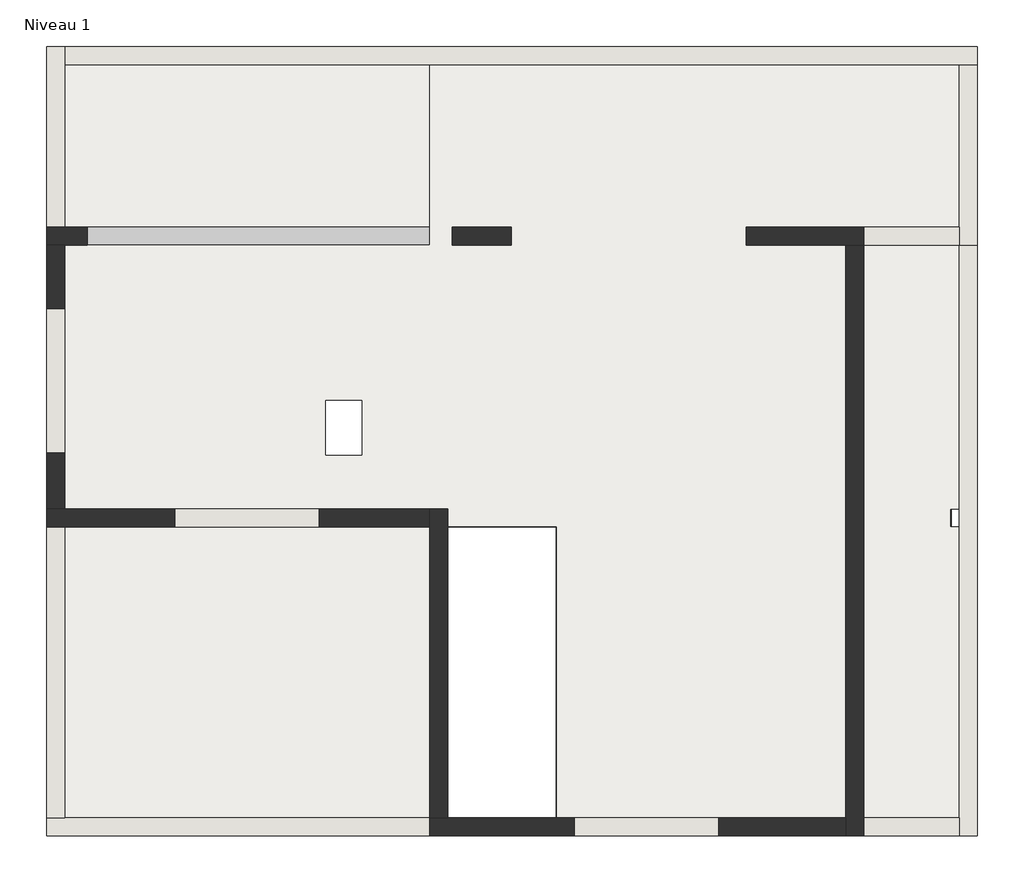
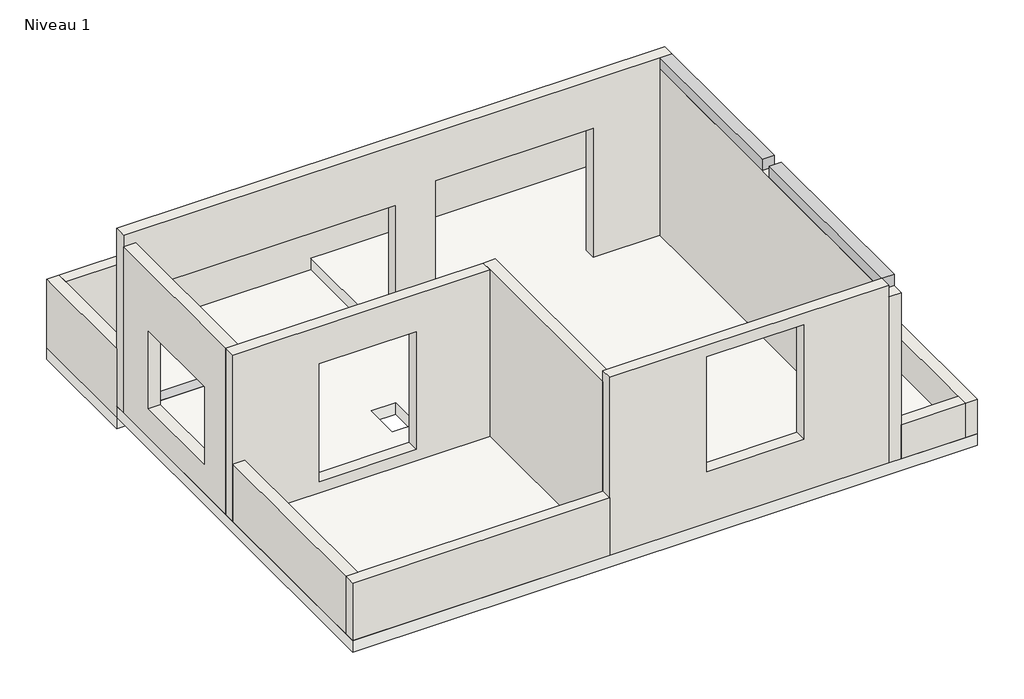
# One storey: 14 walls, 7 beams, 2 slabs.
"""IFC4 building model written with IfcOpenShell, lengths in millimetres."""

from ifc_helpers import new_model, si_unit, frame, origin, place, context, project, spatial, polyline, outline, extrude, faceted_brep, element, save

model = new_model("IFC4")

# Units and contexts
model_context = context("Model", 3, world=origin())
ifc_project = project(units=[si_unit("LENGTHUNIT", "METRE", prefix="MILLI")], contexts=[model_context])

# Site, building, storey
site = spatial("IfcSite", under=ifc_project)
building = spatial("IfcBuilding", under=site)
storey = spatial("IfcBuildingStorey", under=building, Name="Niveau 1", Elevation=2900.0)

# Beams
placement = place(None, origin())
element("IfcBeam", 1, ObjectType="LMO Poutres rectangulaires : LMO Poutres rectangulaires", at=placement, inside=storey, context=model_context, shape_type="Brep", body=[
    faceted_brep([(1266.8198466, -8665.2827088, 2500.0), (1266.8198466, -8465.2827088, 2500.0), (1266.8198466, -8465.2827088, 2700.0), (1266.8198466, -8665.2827088, 2700.0), (-4347.8690561, -8465.2827088, 2500.0), (-4347.8690561, -8665.2827088, 2500.0), (-4347.8690561, -8665.2827088, 2700.0), (-4347.8690561, -8465.2827088, 2700.0), (-3105.2732558, -8665.2827088, 2700.0), (-4305.2732558, -8665.2827088, 2700.0)], [[[0, 1, 2, 3]], [[4, 5, 6, 7]], [[5, 0, 3, 8, 9, 6]], [[1, 0, 5, 4]], [[1, 4, 7, 2]], [[3, 2, 7, 6, 9, 8]]]),
])
element("IfcBeam", 2, ObjectType="LMO Poutres rectangulaires : LMO Poutres rectangulaires", at=placement, inside=storey, context=model_context, shape_type="SweptSolid", body=[
    extrude(outline(polyline([(1354.7267442, -3345.2827088), (1554.7267442, -3345.2827088), (1554.7267442, -5345.2827088), (1354.7267442, -5345.2827088), (1354.7267442, -3345.2827088)])), frame((0.0, 0.0, 2500.0), z_axis=(0.0, 0.0, 1.0), x_axis=(1.0, 0.0, 0.0)), (0.0, 0.0, 1.0), 200.0),
])
element("IfcBeam", 3, ObjectType="LMO Poutres rectangulaires : LMO Poutres rectangulaires", at=placement, inside=storey, context=model_context, shape_type="Brep", body=[
    faceted_brep([(-8545.2732558, -5545.2827088, 2900.0), (-8545.2732558, -5345.2827088, 2900.0), (-8545.2732558, -5345.2827088, 2700.0), (-8545.2732558, -5345.2827088, 2500.0), (-8545.2732558, -5545.2827088, 2500.0), (-8545.2732558, -5545.2827088, 2700.0), (-4505.2732558, -5545.2827088, 2900.0), (-4505.2732558, -5545.2827088, 2700.0), (-4505.2732558, -5545.2827088, 2500.0), (-4505.2732558, -5345.2827088, 2500.0), (-4505.2732558, -5345.2827088, 2900.0)], [[[0, 1, 2, 3, 4, 5]], [[6, 7, 8, 9, 10]], [[1, 0, 6, 10]], [[3, 2, 1, 10, 9]], [[4, 3, 9, 8]], [[0, 5, 4, 8, 7, 6]]]),
])
element("IfcBeam", 4, ObjectType="LMO Poutres rectangulaires : LMO Poutres rectangulaires", at=placement, inside=storey, context=model_context, shape_type="SweptSolid", body=[
    extrude(outline(polyline([(-4505.2732558, -8465.2827088), (-4505.2732558, -8665.2827088), (-8545.2732558, -8665.2827088), (-8545.2732558, -8465.2827088), (-4505.2732558, -8465.2827088)])), frame((0.0, 0.0, 2700.0), z_axis=(0.0, 0.0, 1.0), x_axis=(1.0, 0.0, 0.0)), (0.0, 0.0, 1.0), 200.0),
])
element("IfcBeam", 5, ObjectType="LMO Poutres rectangulaires : LMO Poutres rectangulaires", at=placement, inside=storey, context=model_context, shape_type="SweptSolid", body=[
    extrude(outline(polyline([(294.7267442, -8465.2827088), (94.7267442, -8465.2827088), (94.7267442, -5545.2827088), (294.7267442, -5545.2827088), (294.7267442, -8465.2827088)])), frame((0.0, 0.0, 2700.0), z_axis=(0.0, 0.0, 1.0), x_axis=(1.0, 0.0, 0.0)), (0.0, 0.0, 1.0), 3300.0),
])
element("IfcBeam", 6, ObjectType="LMO Poutres rectangulaires : LMO Poutres rectangulaires", at=placement, inside=storey, context=model_context, shape_type="SweptSolid", body=[
    extrude(outline(polyline([(294.7267442, -11885.2827088), (94.7267442, -11885.2827088), (94.7267442, -8665.2827088), (294.7267442, -8665.2827088), (294.7267442, -11885.2827088)])), frame((0.0, 0.0, 2700.0), z_axis=(0.0, 0.0, 1.0), x_axis=(1.0, 0.0, 0.0)), (0.0, 0.0, 1.0), 3300.0),
])
element("IfcBeam", 7, ObjectType="LMO Poutres rectangulaires : LMO Poutres rectangulaires", at=placement, inside=storey, context=model_context, shape_type="SweptSolid", body=[
    extrude(outline(polyline([(-2805.2732558, -11885.2827088), (-3105.2732558, -11885.2827088), (-3105.2732558, -8665.2827088), (-2805.2732558, -8665.2827088), (-2805.2732558, -11885.2827088)])), frame((0.0, 0.0, 2700.0), z_axis=(0.0, 0.0, 1.0), x_axis=(1.0, 0.0, 0.0)), (0.0, 0.0, 1.0), 200.0),
])

# Slabs
element("IfcSlab", 8, ObjectType="LMO dalle BA 200", at=placement, inside=storey, context=model_context, shape_type="Brep", body=[
    faceted_brep([(1554.7267442, -12085.2827088, 2700.0), (1354.7267442, -12085.2827088, 2700.0), (-8745.2732558, -12085.2827088, 2700.0), (-8745.2732558, -11885.2827088, 2700.0), (-8745.2732558, -5345.2827088, 2700.0), (-8545.2732558, -5345.2827088, 2700.0), (-8545.2732558, -5545.2827088, 2700.0), (-4505.2732558, -5545.2827088, 2700.0), (-4505.2732558, -5345.2827088, 2700.0), (-4505.2732558, -3545.2827088, 2700.0), (-4505.2732558, -3345.2827088, 2700.0), (-4305.2732558, -3345.2827088, 2700.0), (1354.7267442, -3345.2827088, 2700.0), (1554.7267442, -3345.2827088, 2700.0), (1554.7267442, -5345.2827088, 2700.0), (1554.7267442, -5545.2827088, 2700.0), (1554.7267442, -8465.2827088, 2700.0), (1354.7267442, -8465.2827088, 2700.0), (1254.7267442, -8465.2827088, 2700.0), (1254.7267442, -8665.2827088, 2700.0), (1354.7267442, -8665.2827088, 2700.0), (1554.7267442, -8665.2827088, 2700.0), (-3105.2732558, -11885.2827088, 2700.0), (-3105.2732558, -8665.2827088, 2700.0), (-4293.4698569, -8665.2827088, 2700.0), (-4305.2732558, -8665.2827088, 2700.0), (-4305.2732558, -8677.0861077, 2700.0), (-4305.2732558, -11885.2827088, 2700.0), (-5255.2732558, -7265.2827088, 2700.0), (-5655.2732558, -7265.2827088, 2700.0), (-5655.2732558, -7865.2827088, 2700.0), (-5255.2732558, -7865.2827088, 2700.0), (-8745.2732558, -12085.2827088, 2900.0), (-4505.2732558, -12085.2827088, 2900.0), (94.7267442, -12085.2827088, 2900.0), (294.7267442, -12085.2827088, 2900.0), (1354.7267442, -12085.2827088, 2900.0), (1554.7267442, -12085.2827088, 2900.0), (1554.7267442, -8665.2827088, 2900.0), (1254.7267442, -8665.2827088, 2900.0), (1254.7267442, -8465.2827088, 2900.0), (1554.7267442, -8465.2827088, 2900.0), (1554.7267442, -5545.2827088, 2900.0), (1554.7267442, -3545.2827088, 2900.0), (1554.7267442, -3345.2827088, 2900.0), (-4505.2732558, -3345.2827088, 2900.0), (-4505.2732558, -3545.2827088, 2900.0), (-4505.2732558, -5345.2827088, 2900.0), (-4505.2732558, -5545.2827088, 2900.0), (-8545.2732558, -5545.2827088, 2900.0), (-8545.2732558, -5345.2827088, 2900.0), (-8745.2732558, -5345.2827088, 2900.0), (-8745.2732558, -5545.2827088, 2900.0), (-8745.2732558, -8465.2827088, 2900.0), (-8745.2732558, -8665.2827088, 2900.0), (-8745.2732558, -11885.2827088, 2900.0), (-3105.2732558, -8665.2827088, 2900.0), (-3105.2732558, -11885.2827088, 2900.0), (-4305.2732558, -11885.2827088, 2900.0), (-4305.2732558, -8677.0861077, 2900.0), (-4305.2732558, -8665.2827088, 2900.0), (-4293.4698569, -8665.2827088, 2900.0), (-5655.2732558, -7265.2827088, 2900.0), (-5255.2732558, -7265.2827088, 2900.0), (-5255.2732558, -7865.2827088, 2900.0), (-5655.2732558, -7865.2827088, 2900.0)], [[[0, 1, 2, 3, 4, 5, 6, 7, 8, 9, 10, 11, 12, 13, 14, 15, 16, 17, 18, 19, 20, 21], [22, 23, 24, 25, 26, 27], [28, 29, 30, 31]], [[32, 33, 34, 35, 36, 37, 38, 39, 40, 41, 42, 43, 44, 45, 46, 47, 48, 49, 50, 51, 52, 53, 54, 55], [56, 57, 58, 59, 60, 61], [62, 63, 64, 65]], [[2, 1, 0, 37, 36, 35, 34, 33, 32]], [[4, 3, 2, 32, 55, 54, 53, 52, 51]], [[7, 6, 49, 48]], [[7, 48, 47, 46, 45, 10, 9, 8]], [[13, 12, 11, 10, 45, 44]], [[13, 44, 43, 42, 41, 16, 15, 14]], [[37, 0, 21, 38]], [[23, 22, 57, 56]], [[25, 24, 23, 56, 61, 60]], [[27, 26, 25, 60, 59, 58]], [[22, 27, 58, 57]], [[29, 28, 63, 62]], [[30, 29, 62, 65]], [[31, 30, 65, 64]], [[28, 31, 64, 63]], [[19, 39, 38, 21, 20]], [[39, 19, 18, 40]], [[40, 18, 17, 16, 41]], [[5, 4, 51, 50]], [[6, 5, 50, 49]]]),
])
element("IfcSlab", 9, ObjectType="LMO dalle BA 200", at=placement, inside=storey, context=model_context, shape_type="Brep", body=[
    faceted_brep([(-4305.2732558, -3345.2827088, 2500.0), (-4305.2732558, -3545.2827088, 2500.0), (-4305.2732558, -5345.2827088, 2500.0), (-4505.2732558, -5345.2827088, 2500.0), (-8545.2732558, -5345.2827088, 2500.0), (-8745.2732558, -5345.2827088, 2500.0), (-8745.2732558, -3545.2827088, 2500.0), (-8745.2732558, -3345.2827088, 2500.0), (-4305.2732558, -3345.2827088, 2700.0), (-4505.2732558, -3345.2827088, 2700.0), (-8545.2732558, -3345.2827088, 2700.0), (-8745.2732558, -3345.2827088, 2700.0), (-8745.2732558, -5345.2827088, 2700.0), (-8545.2732558, -5345.2827088, 2700.0), (-4505.2732558, -5345.2827088, 2700.0), (-4305.2732558, -5345.2827088, 2700.0)], [[[0, 1, 2, 3, 4, 5, 6, 7]], [[8, 9, 10, 11, 12, 13, 14, 15]], [[2, 1, 0, 8, 15]], [[5, 4, 3, 2, 15, 14, 13, 12]], [[7, 6, 5, 12, 11]], [[0, 7, 11, 10, 9, 8]]]),
])

# Walls
element("IfcWall", 10, ObjectType="Générique - 200 mm", at=placement, inside=storey, context=model_context, shape_type="Brep", body=[
    faceted_brep([(-8745.2732558, -5545.2827088, 2900.0), (-8545.2732558, -5545.2827088, 2900.0), (-8295.2732558, -5545.2827088, 2900.0), (-8295.2732558, -5545.2827088, 4950.0), (-4255.2732558, -5545.2827088, 4950.0), (-4255.2732558, -5545.2827088, 2900.0), (-3605.2732558, -5545.2827088, 2900.0), (-3605.2732558, -5545.2827088, 5150.0), (-1005.2732558, -5545.2827088, 5150.0), (-1005.2732558, -5545.2827088, 2900.0), (94.7267442, -5545.2827088, 2900.0), (294.7267442, -5545.2827088, 2900.0), (294.7267442, -5545.2827088, 3900.0), (294.7267442, -5545.2827088, 5800.0), (294.7267442, -5545.2827088, 6000.0), (-8745.2732558, -5545.2827088, 6000.0), (-8745.2732558, -5545.2827088, 5800.0), (-8295.2732558, -5345.2827088, 4950.0), (-8295.2732558, -5345.2827088, 2900.0), (-8545.2732558, -5345.2827088, 2900.0), (-8745.2732558, -5345.2827088, 2900.0), (-8745.2732558, -5345.2827088, 3900.0), (-8745.2732558, -5345.2827088, 6000.0), (294.7267442, -5345.2827088, 6000.0), (294.7267442, -5345.2827088, 3900.0), (294.7267442, -5345.2827088, 2900.0), (-1005.2732558, -5345.2827088, 2900.0), (-1005.2732558, -5345.2827088, 5150.0), (-3605.2732558, -5345.2827088, 5150.0), (-3605.2732558, -5345.2827088, 2900.0), (-4255.2732558, -5345.2827088, 2900.0), (-4255.2732558, -5345.2827088, 4950.0)], [[[0, 1, 2, 3, 4, 5, 6, 7, 8, 9, 10, 11, 12, 13, 14, 15, 16]], [[17, 18, 19, 20, 21, 22, 23, 24, 25, 26, 27, 28, 29, 30, 31]], [[11, 10, 9, 26, 25]], [[30, 29, 6, 5]], [[20, 19, 18, 2, 1, 0]], [[15, 14, 23, 22]], [[5, 4, 31, 30]], [[3, 2, 18, 17]], [[4, 3, 17, 31]], [[29, 28, 7, 6]], [[27, 26, 9, 8]], [[28, 27, 8, 7]], [[15, 22, 21, 20, 0, 16]], [[11, 25, 24, 23, 14, 13, 12]]]),
])
element("IfcWall", 11, ObjectType="Générique - 200 mm", at=placement, inside=storey, context=model_context, shape_type="Brep", body=[
    faceted_brep([(94.7267442, -5545.2827088, 2900.0), (94.7267442, -11885.2827088, 2900.0), (94.7267442, -12085.2827088, 2900.0), (94.7267442, -12085.2827088, 5800.0), (94.7267442, -11885.2827088, 5800.0), (94.7267442, -5545.2827088, 5800.0), (294.7267442, -12085.2827088, 2900.0), (294.7267442, -11885.2827088, 2900.0), (294.7267442, -5545.2827088, 2900.0), (294.7267442, -5545.2827088, 5800.0), (294.7267442, -12085.2827088, 5800.0), (294.7267442, -12085.2827088, 3500.0)], [[[0, 1, 2, 3, 4, 5]], [[6, 7, 8, 9, 10, 11]], [[2, 1, 0, 8, 7, 6]], [[5, 4, 3, 10, 9]], [[8, 0, 5, 9]], [[2, 6, 11, 10, 3]]]),
])
element("IfcWall", 12, ObjectType="Générique - 200 mm", at=placement, inside=storey, context=model_context, shape_type="Brep", body=[
    faceted_brep([(94.7267442, -11885.2827088, 6000.0), (94.7267442, -11885.2827088, 5800.0), (94.7267442, -11885.2827088, 2900.0), (-3105.2732558, -11885.2827088, 2900.0), (-4305.2732558, -11885.2827088, 2900.0), (-4505.2732558, -11885.2827088, 2900.0), (-4505.2732558, -11885.2827088, 3900.0), (-4505.2732558, -11885.2827088, 5800.0), (-4505.2732558, -11885.2827088, 6000.0), (-2905.2732558, -11885.2827088, 5800.0), (-2905.2732558, -11885.2827088, 3800.0), (-1305.2732558, -11885.2827088, 3800.0), (-1305.2732558, -11885.2827088, 5800.0), (94.7267442, -12085.2827088, 2900.0), (94.7267442, -12085.2827088, 5800.0), (94.7267442, -12085.2827088, 6000.0), (-4505.2732558, -12085.2827088, 6000.0), (-4505.2732558, -12085.2827088, 3900.0), (-4505.2732558, -12085.2827088, 2900.0), (-2905.2732558, -12085.2827088, 5800.0), (-1305.2732558, -12085.2827088, 5800.0), (-1305.2732558, -12085.2827088, 3800.0), (-2905.2732558, -12085.2827088, 3800.0)], [[[0, 1, 2, 3, 4, 5, 6, 7, 8], [9, 10, 11, 12]], [[13, 14, 15, 16, 17, 18], [19, 20, 21, 22]], [[5, 4, 3, 2, 13, 18]], [[0, 8, 16, 15]], [[10, 9, 19, 22]], [[11, 10, 22, 21]], [[12, 11, 21, 20]], [[9, 12, 20, 19]], [[0, 15, 14, 13, 2, 1]], [[5, 18, 17, 16, 8, 7, 6]]]),
])
element("IfcWall", 13, ObjectType="Générique - 200 mm", at=placement, inside=storey, context=model_context, shape_type="Brep", body=[
    faceted_brep([(-4305.2732558, -11885.2827088, 2900.0), (-4305.2732558, -8665.2827088, 2900.0), (-4305.2732558, -8465.2827088, 2900.0), (-4305.2732558, -8465.2827088, 5800.0), (-4305.2732558, -11885.2827088, 5800.0), (-4505.2732558, -8465.2827088, 2900.0), (-4505.2732558, -8665.2827088, 2900.0), (-4505.2732558, -11885.2827088, 2900.0), (-4505.2732558, -11885.2827088, 5800.0), (-4505.2732558, -8665.2827088, 5800.0), (-4505.2732558, -8465.2827088, 5800.0)], [[[0, 1, 2, 3, 4]], [[5, 6, 7, 8, 9, 10]], [[2, 1, 0, 7, 6, 5]], [[2, 5, 10, 3]], [[4, 3, 10, 9, 8]], [[7, 0, 4, 8]]]),
])
element("IfcWall", 14, ObjectType="Générique - 200 mm", at=placement, inside=storey, context=model_context, shape_type="Brep", body=[
    faceted_brep([(-4505.2732558, -8465.2827088, 2900.0), (-8545.2732558, -8465.2827088, 2900.0), (-8745.2732558, -8465.2827088, 2900.0), (-8745.2732558, -8465.2827088, 5800.0), (-8545.2732558, -8465.2827088, 5800.0), (-4505.2732558, -8465.2827088, 5800.0), (-5725.2732558, -8465.2827088, 3100.0), (-5725.2732558, -8465.2827088, 5150.0), (-7325.2732558, -8465.2827088, 5150.0), (-7325.2732558, -8465.2827088, 3100.0), (-8745.2732558, -8665.2827088, 2900.0), (-8545.2732558, -8665.2827088, 2900.0), (-4505.2732558, -8665.2827088, 2900.0), (-4505.2732558, -8665.2827088, 5800.0), (-8745.2732558, -8665.2827088, 5800.0), (-8745.2732558, -8665.2827088, 3900.0), (-5725.2732558, -8665.2827088, 5150.0), (-5725.2732558, -8665.2827088, 3100.0), (-7325.2732558, -8665.2827088, 3100.0), (-7325.2732558, -8665.2827088, 5150.0)], [[[0, 1, 2, 3, 4, 5], [6, 7, 8, 9]], [[10, 11, 12, 13, 14, 15], [16, 17, 18, 19]], [[2, 1, 0, 12, 11, 10]], [[12, 0, 5, 13]], [[17, 16, 7, 6]], [[18, 17, 6, 9]], [[19, 18, 9, 8]], [[16, 19, 8, 7]], [[5, 4, 3, 14, 13]], [[2, 10, 15, 14, 3]]]),
])
element("IfcWall", 15, ObjectType="Générique - 200 mm", at=placement, inside=storey, context=model_context, shape_type="SweptSolid", body=[
    extrude(outline(polyline([(-5545.2827088, 2900.0), (-8465.2827088, 2900.0), (-8465.2827088, 5800.0), (-5545.2827088, 5800.0), (-5545.2827088, 2900.0)]), holes=[polyline([(-6245.2827088, 3400.0), (-6245.2827088, 4750.0), (-7845.2827088, 4750.0), (-7845.2827088, 3400.0), (-6245.2827088, 3400.0)])]), frame((-8745.2732558, 0.0, 0.0), z_axis=(1.0, 0.0, 0.0), x_axis=(0.0, 1.0, 0.0)), (0.0, 0.0, 1.0), 200.0),
])
element("IfcWall", 16, ObjectType="Générique - 200 mm", at=placement, inside=storey, context=model_context, shape_type="Brep", body=[
    faceted_brep([(-8545.2732558, -5345.2827088, 2700.0), (-8545.2732558, -3545.2827088, 2700.0), (-8545.2732558, -3345.2827088, 2700.0), (-8545.2732558, -3345.2827088, 3900.0), (-8545.2732558, -3545.2827088, 3900.0), (-8545.2732558, -5345.2827088, 3900.0), (-8545.2732558, -5345.2827088, 2900.0), (-8745.2732558, -5345.2827088, 2700.0), (-8745.2732558, -5345.2827088, 2900.0), (-8745.2732558, -5345.2827088, 3900.0), (-8745.2732558, -3345.2827088, 3900.0), (-8745.2732558, -3345.2827088, 2700.0)], [[[0, 1, 2, 3, 4, 5, 6]], [[7, 8, 9, 10, 11]], [[2, 1, 0, 7, 11]], [[5, 4, 3, 10, 9]], [[0, 6, 5, 9, 8, 7]], [[3, 2, 11, 10]]]),
])
element("IfcWall", 17, ObjectType="Générique - 200 mm", at=placement, inside=storey, context=model_context, shape_type="Brep", body=[
    faceted_brep([(1554.7267442, -3545.2827088, 3900.0), (1354.7267442, -3545.2827088, 3900.0), (-8545.2732558, -3545.2827088, 3900.0), (-8545.2732558, -3545.2827088, 2700.0), (-4505.2732558, -3545.2827088, 2700.0), (-4505.2732558, -3545.2827088, 2900.0), (1354.7267442, -3545.2827088, 2900.0), (1554.7267442, -3545.2827088, 2900.0), (-8545.2732558, -3345.2827088, 3900.0), (1554.7267442, -3345.2827088, 3900.0), (1554.7267442, -3345.2827088, 2900.0), (-4505.2732558, -3345.2827088, 2900.0), (-4505.2732558, -3345.2827088, 2700.0), (-8545.2732558, -3345.2827088, 2700.0)], [[[0, 1, 2, 3, 4, 5, 6, 7]], [[8, 9, 10, 11, 12, 13]], [[3, 13, 12, 4]], [[2, 1, 0, 9, 8]], [[3, 2, 8, 13]], [[9, 0, 7, 10]], [[5, 11, 10, 7, 6]], [[11, 5, 4, 12]]]),
])
element("IfcWall", 18, ObjectType="Générique - 200 mm", at=placement, inside=storey, context=model_context, shape_type="Brep", body=[
    faceted_brep([(1354.7267442, -3545.2827088, 2900.0), (1354.7267442, -5345.2827088, 2900.0), (1354.7267442, -5545.2827088, 2900.0), (1354.7267442, -5545.2827088, 3500.0), (1354.7267442, -5545.2827088, 3900.0), (1354.7267442, -5345.2827088, 3900.0), (1354.7267442, -3545.2827088, 3900.0), (1554.7267442, -3545.2827088, 2900.0), (1554.7267442, -3545.2827088, 3900.0), (1554.7267442, -5545.2827088, 3900.0), (1554.7267442, -5545.2827088, 3500.0), (1554.7267442, -5545.2827088, 2900.0)], [[[0, 1, 2, 3, 4, 5, 6]], [[7, 8, 9, 10, 11]], [[2, 1, 0, 7, 11]], [[6, 5, 4, 9, 8]], [[0, 6, 8, 7]], [[2, 11, 10, 9, 4, 3]]]),
])
element("IfcWall", 19, ObjectType="Générique - 200 mm", at=placement, inside=storey, context=model_context, shape_type="SweptSolid", body=[
    extrude(outline(polyline([(294.7267442, -5345.2827088), (1354.7267442, -5345.2827088), (1354.7267442, -5545.2827088), (294.7267442, -5545.2827088), (294.7267442, -5345.2827088)])), frame((0.0, 0.0, 2900.0), z_axis=(0.0, 0.0, 1.0), x_axis=(1.0, 0.0, 0.0)), (0.0, 0.0, 1.0), 1000.0),
])
element("IfcWall", 20, ObjectType="Générique - 200 mm", at=placement, inside=storey, context=model_context, shape_type="Brep", body=[
    faceted_brep([(1354.7267442, -5545.2827088, 2900.0), (1354.7267442, -11885.2827088, 2900.0), (1354.7267442, -12085.2827088, 2900.0), (1354.7267442, -12085.2827088, 3500.0), (1354.7267442, -11885.2827088, 3500.0), (1354.7267442, -5545.2827088, 3500.0), (1554.7267442, -5545.2827088, 2900.0), (1554.7267442, -5545.2827088, 3500.0), (1554.7267442, -12085.2827088, 3500.0), (1554.7267442, -12085.2827088, 2900.0), (1554.7267442, -8665.2827088, 2900.0), (1554.7267442, -8465.2827088, 2900.0)], [[[0, 1, 2, 3, 4, 5]], [[6, 7, 8, 9, 10, 11]], [[2, 1, 0, 6, 11, 10, 9]], [[5, 4, 3, 8, 7]], [[0, 5, 7, 6]], [[3, 2, 9, 8]]]),
])
element("IfcWall", 21, ObjectType="Générique - 200 mm", at=placement, inside=storey, context=model_context, shape_type="SweptSolid", body=[
    extrude(outline(polyline([(294.7267442, -11885.2827088), (1354.7267442, -11885.2827088), (1354.7267442, -12085.2827088), (294.7267442, -12085.2827088), (294.7267442, -11885.2827088)])), frame((0.0, 0.0, 2900.0), z_axis=(0.0, 0.0, 1.0), x_axis=(1.0, 0.0, 0.0)), (0.0, 0.0, 1.0), 600.0),
])
element("IfcWall", 22, ObjectType="Générique - 200 mm", at=placement, inside=storey, context=model_context, shape_type="Brep", body=[
    faceted_brep([(-4505.2732558, -11885.2827088, 2900.0), (-8545.2732558, -11885.2827088, 2900.0), (-8745.2732558, -11885.2827088, 2900.0), (-8745.2732558, -11885.2827088, 3900.0), (-8545.2732558, -11885.2827088, 3900.0), (-4505.2732558, -11885.2827088, 3900.0), (-4505.2732558, -12085.2827088, 2900.0), (-4505.2732558, -12085.2827088, 3900.0), (-8745.2732558, -12085.2827088, 3900.0), (-8745.2732558, -12085.2827088, 2900.0)], [[[0, 1, 2, 3, 4, 5]], [[6, 7, 8, 9]], [[2, 1, 0, 6, 9]], [[5, 4, 3, 8, 7]], [[0, 5, 7, 6]], [[3, 2, 9, 8]]]),
])
element("IfcWall", 23, ObjectType="Générique - 200 mm", at=placement, inside=storey, context=model_context, shape_type="SweptSolid", body=[
    extrude(outline(polyline([(-8545.2732558, -8665.2827088), (-8545.2732558, -11885.2827088), (-8745.2732558, -11885.2827088), (-8745.2732558, -8665.2827088), (-8545.2732558, -8665.2827088)])), frame((0.0, 0.0, 2900.0), z_axis=(0.0, 0.0, 1.0), x_axis=(1.0, 0.0, 0.0)), (0.0, 0.0, 1.0), 1000.0),
])

save(model, "model.ifc")
